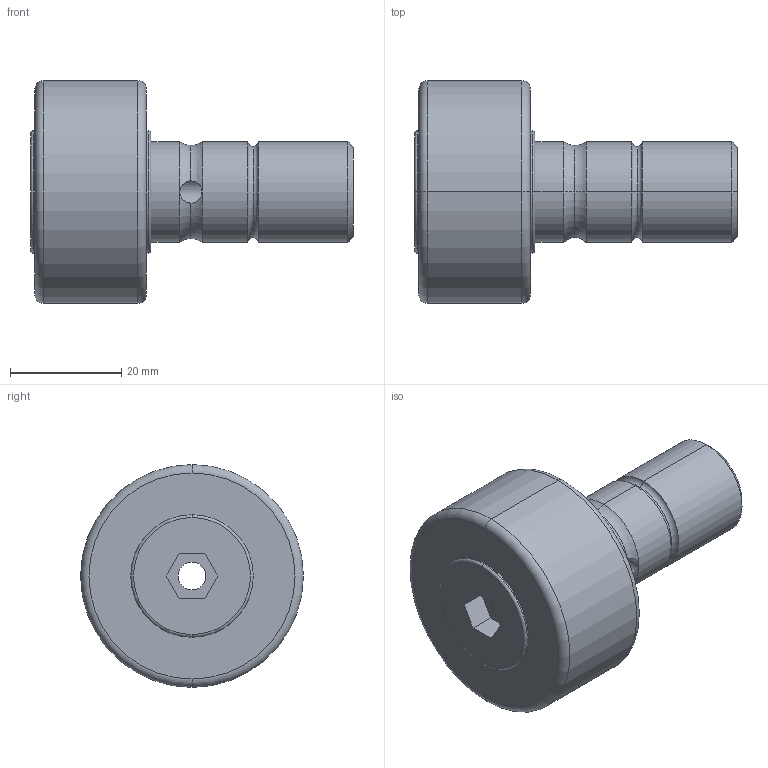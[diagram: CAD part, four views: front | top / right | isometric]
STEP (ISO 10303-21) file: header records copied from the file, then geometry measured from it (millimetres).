
FILE_DESCRIPTION (( 'STEP AP214' ), '1' );
FILE_NAME ('3DNUKR40.STEP', '2013-12-19T08:04:27', ( 'usuario' ), ( 'Hewlett-Packard Company' ), 'SwSTEP 2.0', 'SolidWorks 2017', '' );
FILE_SCHEMA (( 'AUTOMOTIVE_DESIGN' ));
Length unit declared in the file: millimetre
Products named in the file (1): 3DNUKR40
Bounding box: 58 x 40 x 40 mm (x, y, z)
Volume: 33154.3 mm3; surface area: 8043.3 mm2
Topology: 1 solids, 1 shells, 55 faces, 121 edges, 72 vertices
Faces by surface type: plane 19, torus 18, cylinder 16, cone 2
Entity records: 1652 total; most frequent: CARTESIAN_POINT 363, DIRECTION 288, ORIENTED_EDGE 242, EDGE_CURVE 121, AXIS2_PLACEMENT_3D 117, VERTEX_POINT 72, EDGE_LOOP 63, CIRCLE 61
